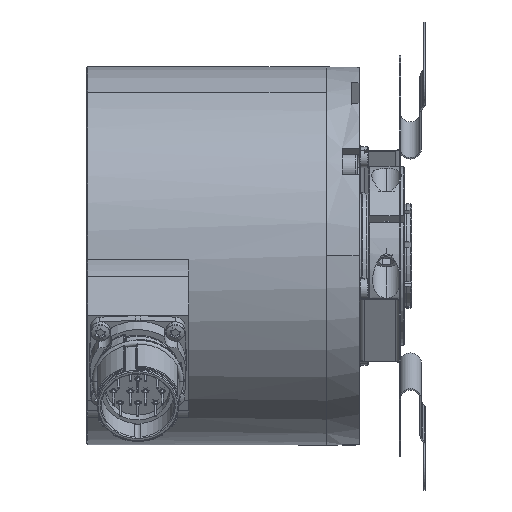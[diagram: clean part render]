
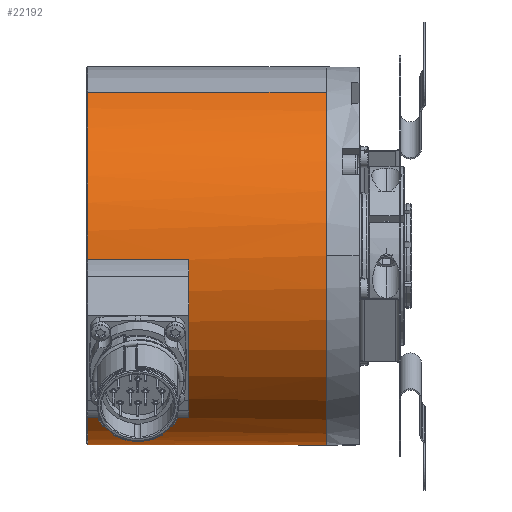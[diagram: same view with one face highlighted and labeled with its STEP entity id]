
A CAD part, top view. The second image highlights one B-rep face of the part: STEP entity #22192.
In plain terms, the highlighted cylindrical face has radius 50 mm (diameter 100 mm), a partial arc.
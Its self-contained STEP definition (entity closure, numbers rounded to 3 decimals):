
#32 = CARTESIAN_POINT ( 'NONE',  ( -8.7, 43.301, 25. ) ) ;
#162 = VECTOR ( 'NONE', #29339, 1000. ) ;
#1182 = VERTEX_POINT ( 'NONE', #15853 ) ;
#2080 = LINE ( 'NONE', #28495, #162 ) ;
#4276 = VECTOR ( 'NONE', #71863, 1000. ) ;
#7232 = DIRECTION ( 'NONE',  ( 0., 0.866, 0.5 ) ) ;
#7954 = AXIS2_PLACEMENT_3D ( 'NONE', #75832, #75781, #75767 ) ;
#8524 = EDGE_LOOP ( 'NONE', ( #22924, #22058, #42855, #12799, #63933, #12520, #17489, #26175 ) ) ;
#11653 = CARTESIAN_POINT ( 'NONE',  ( -45., 0., 0. ) ) ;
#12520 = ORIENTED_EDGE ( 'NONE', *, *, #32320, .T. ) ;
#12799 = ORIENTED_EDGE ( 'NONE', *, *, #45727, .T. ) ;
#15853 = CARTESIAN_POINT ( 'NONE',  ( -71.8, -1.056, 49.989 ) ) ;
#16627 = LINE ( 'NONE', #25662, #32559 ) ;
#16887 = LINE ( 'NONE', #38217, #32827 ) ;
#17489 = ORIENTED_EDGE ( 'NONE', *, *, #47178, .T. ) ;
#19960 = CIRCLE ( 'NONE', #42821, 50. ) ;
#20259 = CIRCLE ( 'NONE', #60263, 50. ) ;
#21870 = CIRCLE ( 'NONE', #38320, 50. ) ;
#22058 = ORIENTED_EDGE ( 'NONE', *, *, #50216, .T. ) ;
#22192 = ADVANCED_FACE ( 'NONE', ( #39515 ), #62875, .T. ) ;
#22924 = ORIENTED_EDGE ( 'NONE', *, *, #31285, .T. ) ;
#24872 = DIRECTION ( 'NONE',  ( -1., 0., 0. ) ) ;
#25197 = AXIS2_PLACEMENT_3D ( 'NONE', #62574, #62405, #43342 ) ;
#25662 = CARTESIAN_POINT ( 'NONE',  ( -58.5, -43.301, -25. ) ) ;
#25861 = VERTEX_POINT ( 'NONE', #32 ) ;
#25934 = CARTESIAN_POINT ( 'NONE',  ( -45., -1.056, 49.989 ) ) ;
#26175 = ORIENTED_EDGE ( 'NONE', *, *, #64757, .F. ) ;
#26944 = CIRCLE ( 'NONE', #7954, 50. ) ;
#27264 = DIRECTION ( 'NONE',  ( 0., 0.866, 0.5 ) ) ;
#28495 = CARTESIAN_POINT ( 'NONE',  ( -58.5, -42.764, 25.909 ) ) ;
#29229 = EDGE_CURVE ( 'NONE', #52313, #1182, #21870, .T. ) ;
#29339 = DIRECTION ( 'NONE',  ( -1., 0., 0. ) ) ;
#29491 = VERTEX_POINT ( 'NONE', #32697 ) ;
#31285 = EDGE_CURVE ( 'NONE', #34030, #25861, #26944, .T. ) ;
#32320 = EDGE_CURVE ( 'NONE', #54065, #58667, #2080, .T. ) ;
#32559 = VECTOR ( 'NONE', #24872, 1000. ) ;
#32697 = CARTESIAN_POINT ( 'NONE',  ( -71.8, -43.301, -25. ) ) ;
#32827 = VECTOR ( 'NONE', #37964, 1000. ) ;
#34030 = VERTEX_POINT ( 'NONE', #45830 ) ;
#36258 = LINE ( 'NONE', #68549, #4276 ) ;
#36324 = DIRECTION ( 'NONE',  ( 1., 0., 0. ) ) ;
#37964 = DIRECTION ( 'NONE',  ( 1., 0., 0. ) ) ;
#38217 = CARTESIAN_POINT ( 'NONE',  ( -58.5, -1.056, 49.989 ) ) ;
#38320 = AXIS2_PLACEMENT_3D ( 'NONE', #42674, #48738, #27264 ) ;
#38347 = CARTESIAN_POINT ( 'NONE',  ( -71.8, 43.301, 25. ) ) ;
#39515 = FACE_OUTER_BOUND ( 'NONE', #8524, .T. ) ;
#42674 = CARTESIAN_POINT ( 'NONE',  ( -71.8, 0., 0. ) ) ;
#42821 = AXIS2_PLACEMENT_3D ( 'NONE', #54692, #54681, #54596 ) ;
#42855 = ORIENTED_EDGE ( 'NONE', *, *, #29229, .T. ) ;
#43342 = DIRECTION ( 'NONE',  ( 0., -0.866, -0.5 ) ) ;
#45727 = EDGE_CURVE ( 'NONE', #1182, #69846, #16887, .T. ) ;
#45830 = CARTESIAN_POINT ( 'NONE',  ( -8.7, -43.301, -25. ) ) ;
#47178 = EDGE_CURVE ( 'NONE', #58667, #29491, #19960, .T. ) ;
#48738 = DIRECTION ( 'NONE',  ( 1., 0., 0. ) ) ;
#50216 = EDGE_CURVE ( 'NONE', #25861, #52313, #36258, .T. ) ;
#50233 = EDGE_CURVE ( 'NONE', #69846, #54065, #20259, .T. ) ;
#52313 = VERTEX_POINT ( 'NONE', #38347 ) ;
#54065 = VERTEX_POINT ( 'NONE', #58053 ) ;
#54596 = DIRECTION ( 'NONE',  ( 0., 0.866, 0.5 ) ) ;
#54681 = DIRECTION ( 'NONE',  ( 1., 0., 0. ) ) ;
#54692 = CARTESIAN_POINT ( 'NONE',  ( -71.8, 0., 0. ) ) ;
#58053 = CARTESIAN_POINT ( 'NONE',  ( -45., -42.764, 25.909 ) ) ;
#58667 = VERTEX_POINT ( 'NONE', #60463 ) ;
#60263 = AXIS2_PLACEMENT_3D ( 'NONE', #11653, #36324, #7232 ) ;
#60463 = CARTESIAN_POINT ( 'NONE',  ( -71.8, -42.764, 25.909 ) ) ;
#62405 = DIRECTION ( 'NONE',  ( -1., 0., 0. ) ) ;
#62574 = CARTESIAN_POINT ( 'NONE',  ( -58.5, 0., 0. ) ) ;
#62875 = CYLINDRICAL_SURFACE ( 'NONE', #25197, 50. ) ;
#63933 = ORIENTED_EDGE ( 'NONE', *, *, #50233, .T. ) ;
#64757 = EDGE_CURVE ( 'NONE', #34030, #29491, #16627, .T. ) ;
#68549 = CARTESIAN_POINT ( 'NONE',  ( -58.5, 43.301, 25. ) ) ;
#69846 = VERTEX_POINT ( 'NONE', #25934 ) ;
#71863 = DIRECTION ( 'NONE',  ( -1., 0., 0. ) ) ;
#75767 = DIRECTION ( 'NONE',  ( 0., -0.866, -0.5 ) ) ;
#75781 = DIRECTION ( 'NONE',  ( -1., 0., 0. ) ) ;
#75832 = CARTESIAN_POINT ( 'NONE',  ( -8.7, 0., 0. ) ) ;
